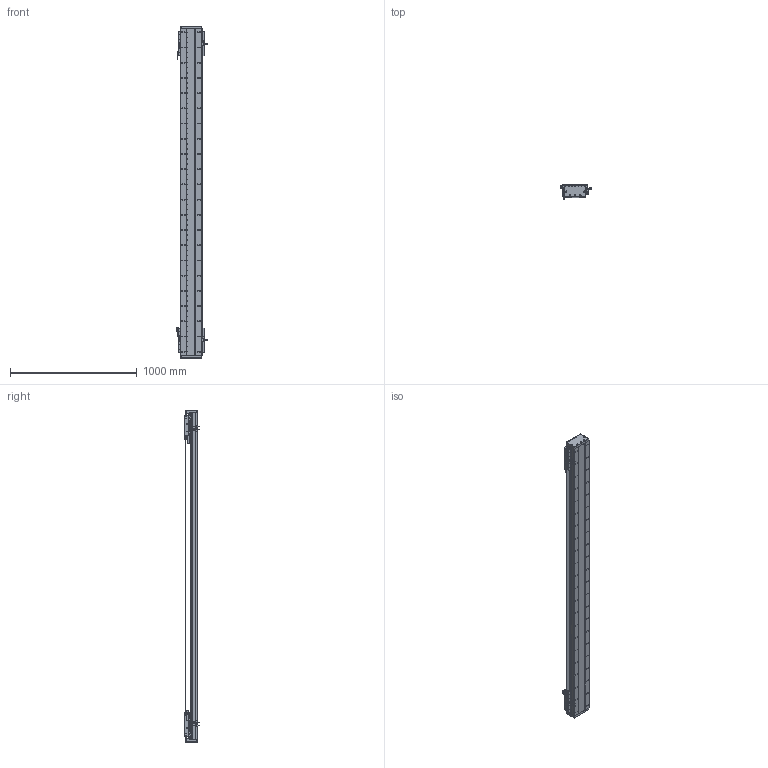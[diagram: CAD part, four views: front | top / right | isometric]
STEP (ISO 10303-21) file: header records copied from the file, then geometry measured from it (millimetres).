
FILE_DESCRIPTION (( 'STEP AP203' ), '1' );
FILE_NAME ('DA-C165-2-C2-T2120-C010-0.2 直线电机.STEP', '2023-05-11T08:26:56', ( '微软用户' ), ( '微软中国' ), 'SwSTEP 2.0', 'SolidWorks 2019', '' );
FILE_SCHEMA (( 'CONFIG_CONTROL_DESIGN' ));
Length unit declared in the file: millimetre
Products named in the file (22): 复件 DA126-GYP-ZJ-00 中间光电感应片^DA-C165-C2-T-C010-0.2-N 直线电机; 复件 CKM02-W075-C1C2-TP-3.0 一体电机-C2^DA-C165-C2-T-C010-0.2-N 直线电机; 复件 XD-U-02L 磁栅尺^DA-C165-C2-T-C010-0.2-N 直线电机_T; 葩璃 CKM01-W075-TRL^DA-C165-C2-T-C010-0.2-N 眻盄萇儂; 复件 CU165钢带组件^DA-C165-C2-T-C010-0.2-N 直线电机; 葩璃 PM-T45^DA-C165-C2-T-C010-0.2-N 眻盄萇儂; 复件 DA165-GD-1860-002-00 钢带盖板^复件 CU165钢带组件_DA-C165-C2-T-C010-0.2-N 直线电机; 复件 66338-1000-006-00 光电感应块^DA-C165-C2-T-C010-0.2-N 直线电机; 复件 DA165-GYP-00 光电感应片^DA-C165-C2-T-C010-0.2-N 直线电机; 复件 DA95-HXJ-00 缓冲橡胶^DA-C165-C2-T-C010-0.2-N 直线电机; 珨极趙賑雄怢啣wf-C2; DA-C165-2-C2-T2120-C010-0.2 眻盄萇儂; 复件 DA165-GD-DG-H-00 端盖^复件 CU165钢带组件_DA-C165-C2-T-C010-0.2-N 直线电机; IU-CU165-L-00 菁釱_L2580; IU-CU165-L 菁釱絳寢; 复件 DKW-HXJ-JY-00 缓冲橡胶^DA-C165-C2-T-C010-0.2-N 直线电机; 葩璃 DA95-GT-T-00^IU-CU165-L 菁釱絳寢_T; 复件 六角薄螺母 M3^DA-C165-C2-T-C010-0.2-N 直线电机_GB_FASTENER_NUT_STNAB M3-C; 葩璃 PM-Y45^DA-C165-C2-T-C010-0.2-N 眻盄萇儂; 复件 DA165-GDLK-00 钢带拉块^复件 CU165钢带组件_DA-C165-C2-T-C010-0.2-N 直线电机; 复件 DA165-GDYK-00 钢带压块^复件 CU165钢带组件_DA-C165-C2-T-C010-0.2-N 直线电机; 复件 DMA-010-0.2 读数头^DA-C165-C2-T-C010-0.2-N 直线电机
Assembly tree (43 placements, depth 3):
  DA-C165-2-C2-T2120-C010-0.2 眻盄萇儂
    IU-CU165-L 菁釱絳寢
      IU-CU165-L-00 菁釱_L2580
      葩璃 DA95-GT-T-00^IU-CU165-L 菁釱絳寢_T  x4
    复件 XD-U-02L 磁栅尺^DA-C165-C2-T-C010-0.2-N 直线电机_T
    葩璃 PM-T45^DA-C165-C2-T-C010-0.2-N 眻盄萇儂  x4
    葩璃 CKM01-W075-TRL^DA-C165-C2-T-C010-0.2-N 眻盄萇儂
    复件 CU165钢带组件^DA-C165-C2-T-C010-0.2-N 直线电机
      复件 DA165-GD-DG-H-00 端盖^复件 CU165钢带组件_DA-C165-C2-T-C010-0.2-N 直线电机  x2
      复件 DA165-GDYK-00 钢带压块^复件 CU165钢带组件_DA-C165-C2-T-C010-0.2-N 直线电机  x2
      复件 DA165-GD-1860-002-00 钢带盖板^复件 CU165钢带组件_DA-C165-C2-T-C010-0.2-N 直线电机
      复件 DA165-GDLK-00 钢带拉块^复件 CU165钢带组件_DA-C165-C2-T-C010-0.2-N 直线电机  x2
    复件 DA95-HXJ-00 缓冲橡胶^DA-C165-C2-T-C010-0.2-N 直线电机  x4
    复件 CKM02-W075-C1C2-TP-3.0 一体电机-C2^DA-C165-C2-T-C010-0.2-N 直线电机  x2
    复件 DMA-010-0.2 读数头^DA-C165-C2-T-C010-0.2-N 直线电机  x2
    复件 DA165-GYP-00 光电感应片^DA-C165-C2-T-C010-0.2-N 直线电机  x2
    复件 66338-1000-006-00 光电感应块^DA-C165-C2-T-C010-0.2-N 直线电机
    葩璃 PM-Y45^DA-C165-C2-T-C010-0.2-N 眻盄萇儂
    复件 DA126-GYP-ZJ-00 中间光电感应片^DA-C165-C2-T-C010-0.2-N 直线电机
    复件 DKW-HXJ-JY-00 缓冲橡胶^DA-C165-C2-T-C010-0.2-N 直线电机  x2
    复件 六角薄螺母 M3^DA-C165-C2-T-C010-0.2-N 直线电机_GB_FASTENER_NUT_STNAB M3-C  x6
    珨极趙賑雄怢啣wf-C2  x2
Bounding box: 247.2 x 111.45 x 2620 mm (x, y, z)
Volume: 16158201.5 mm3; surface area: 4684363.9 mm2
Topology: 119 solids, 119 shells, 5659 faces, 15908 edges, 10040 vertices
Faces by surface type: cylinder 3060, plane 1807, cone 704, torus 80, sphere 8
Entity records: 136440 total; most frequent: CARTESIAN_POINT 36515, ORIENTED_EDGE 20760, DIRECTION 19978, EDGE_CURVE 10380, AXIS2_PLACEMENT_3D 7582, VERTEX_POINT 6777, VECTOR 4814, LINE 4814
